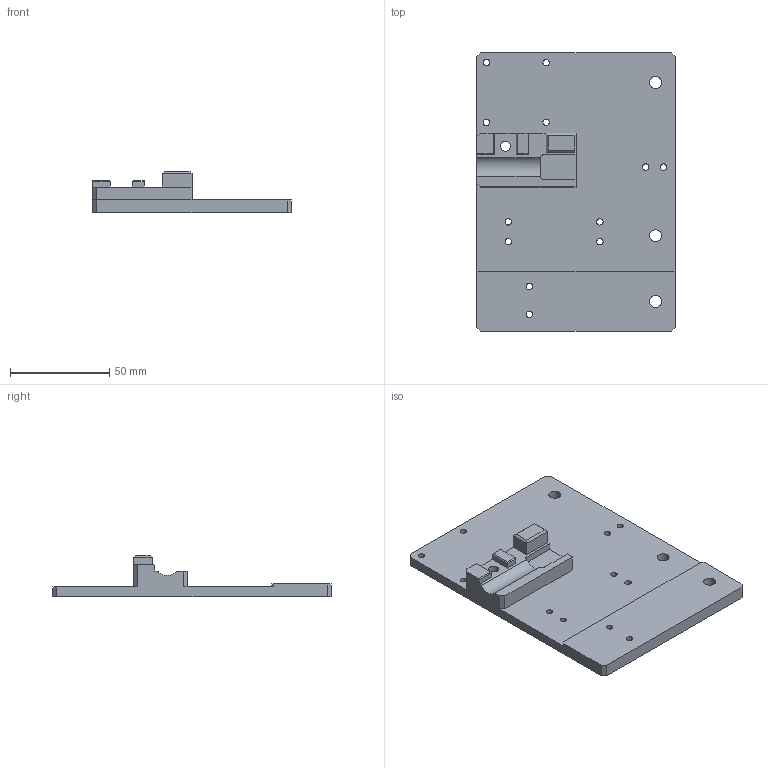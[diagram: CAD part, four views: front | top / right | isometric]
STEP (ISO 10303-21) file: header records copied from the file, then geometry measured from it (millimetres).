
FILE_DESCRIPTION(('CATIA V5 STEP Exchange'),'2;1');
FILE_NAME('G:\够快云库\系统集成开发部\1.部门成员\孙国\工装\气密检测工装\STP\轻卡悬浮阀\GZ-QKQM01_V1 固定底座.stp','2021-08-26T02:00:33+00:00',('none'),('none'),'CATIA Version 5 Release 20 GA (IN-10)','CATIA V5 STEP AP214','none');
FILE_SCHEMA(('AUTOMOTIVE_DESIGN { 1 0 10303 214 1 1 1 1 }'));
Length unit declared in the file: millimetre
Products named in the file (1): 固定底座
Bounding box: 100 x 140 x 21 mm (x, y, z)
Volume: 84326.6 mm3; surface area: 33421.6 mm2
Topology: 1 solids, 1 shells, 78 faces, 228 edges, 152 vertices
Faces by surface type: plane 43, cylinder 35
Entity records: 2519 total; most frequent: ORIENTED_EDGE 456, CARTESIAN_POINT 452, DIRECTION 338, EDGE_CURVE 228, VERTEX_POINT 152, VECTOR 150, LINE 150, AXIS2_PLACEMENT_3D 130
